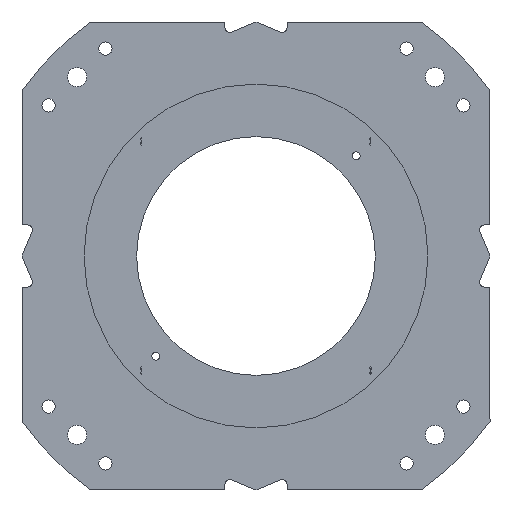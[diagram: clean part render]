
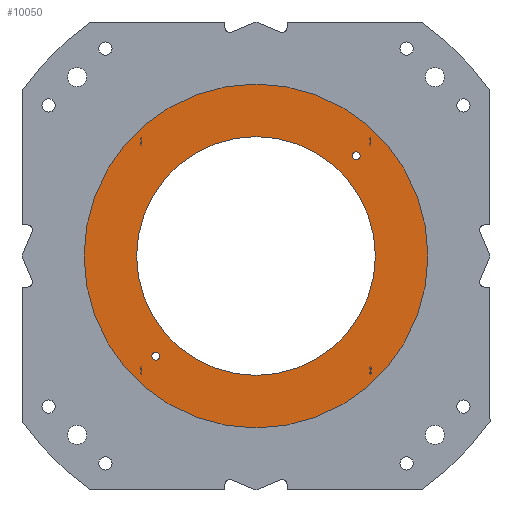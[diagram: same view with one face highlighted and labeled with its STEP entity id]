
A CAD part, front view. The second image highlights one B-rep face of the part: STEP entity #10050.
In plain terms, the highlighted planar face has unit normal (0, -1, 0).
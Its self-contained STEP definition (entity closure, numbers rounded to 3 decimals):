
#120 = AXIS2_PLACEMENT_3D ( 'NONE', #3338, #6889, #6077 ) ;
#306 = CARTESIAN_POINT ( 'NONE',  ( 105., 963., 109. ) ) ;
#326 = ORIENTED_EDGE ( 'NONE', *, *, #1588, .F. ) ;
#343 = CIRCLE ( 'NONE', #2218, 125. ) ;
#516 = FACE_BOUND ( 'NONE', #5820, .T. ) ;
#632 = FACE_BOUND ( 'NONE', #1155, .T. ) ;
#1155 = EDGE_LOOP ( 'NONE', ( #3562, #6162 ) ) ;
#1196 = AXIS2_PLACEMENT_3D ( 'NONE', #11223, #9494, #1535 ) ;
#1378 = CARTESIAN_POINT ( 'NONE',  ( -105., 963., -109. ) ) ;
#1455 = AXIS2_PLACEMENT_3D ( 'NONE', #11106, #10111, #3017 ) ;
#1535 = DIRECTION ( 'NONE',  ( 0., 0., 1. ) ) ;
#1536 = VERTEX_POINT ( 'NONE', #7377 ) ;
#1588 = EDGE_CURVE ( 'NONE', #4759, #8736, #3036, .T. ) ;
#1688 = CARTESIAN_POINT ( 'NONE',  ( 0., 963., 0. ) ) ;
#1820 = CARTESIAN_POINT ( 'NONE',  ( -105., 963., -101. ) ) ;
#1892 = ORIENTED_EDGE ( 'NONE', *, *, #5312, .F. ) ;
#1922 = CARTESIAN_POINT ( 'NONE',  ( 0., 963., -180. ) ) ;
#2131 = EDGE_CURVE ( 'NONE', #4804, #9982, #10859, .T. ) ;
#2218 = AXIS2_PLACEMENT_3D ( 'NONE', #6868, #2456, #10476 ) ;
#2434 = DIRECTION ( 'NONE',  ( 0., 0., -1. ) ) ;
#2456 = DIRECTION ( 'NONE',  ( 0., -1., 0. ) ) ;
#2496 = PLANE ( 'NONE',  #5401 ) ;
#2766 = DIRECTION ( 'NONE',  ( 0., 0., -1. ) ) ;
#2876 = CARTESIAN_POINT ( 'NONE',  ( 0., 963., 0. ) ) ;
#3017 = DIRECTION ( 'NONE',  ( 0., 0., -1. ) ) ;
#3023 = EDGE_LOOP ( 'NONE', ( #11092, #8508 ) ) ;
#3036 = CIRCLE ( 'NONE', #1196, 180. ) ;
#3158 = CIRCLE ( 'NONE', #7067, 180. ) ;
#3297 = FACE_OUTER_BOUND ( 'NONE', #7895, .T. ) ;
#3338 = CARTESIAN_POINT ( 'NONE',  ( -105., 963., -105. ) ) ;
#3562 = ORIENTED_EDGE ( 'NONE', *, *, #2131, .F. ) ;
#3589 = CARTESIAN_POINT ( 'NONE',  ( -105., 963., -105. ) ) ;
#3742 = CARTESIAN_POINT ( 'NONE',  ( 0., 963., -125. ) ) ;
#3882 = AXIS2_PLACEMENT_3D ( 'NONE', #2876, #6422, #9965 ) ;
#4422 = CIRCLE ( 'NONE', #10904, 4. ) ;
#4615 = DIRECTION ( 'NONE',  ( 0., -1., 0. ) ) ;
#4759 = VERTEX_POINT ( 'NONE', #1922 ) ;
#4804 = VERTEX_POINT ( 'NONE', #1820 ) ;
#5053 = DIRECTION ( 'NONE',  ( 0., -1., 0. ) ) ;
#5230 = ORIENTED_EDGE ( 'NONE', *, *, #6028, .F. ) ;
#5312 = EDGE_CURVE ( 'NONE', #10778, #9911, #11093, .T. ) ;
#5401 = AXIS2_PLACEMENT_3D ( 'NONE', #1688, #8525, #2434 ) ;
#5569 = CIRCLE ( 'NONE', #3882, 125. ) ;
#5820 = EDGE_LOOP ( 'NONE', ( #5230, #1892 ) ) ;
#6028 = EDGE_CURVE ( 'NONE', #9911, #10778, #4422, .T. ) ;
#6077 = DIRECTION ( 'NONE',  ( 0., 0., -1. ) ) ;
#6162 = ORIENTED_EDGE ( 'NONE', *, *, #7690, .F. ) ;
#6422 = DIRECTION ( 'NONE',  ( 0., -1., 0. ) ) ;
#6473 = EDGE_CURVE ( 'NONE', #1536, #8322, #343, .T. ) ;
#6494 = CIRCLE ( 'NONE', #10579, 4. ) ;
#6868 = CARTESIAN_POINT ( 'NONE',  ( 0., 963., 0. ) ) ;
#6889 = DIRECTION ( 'NONE',  ( 0., -1., 0. ) ) ;
#7067 = AXIS2_PLACEMENT_3D ( 'NONE', #7737, #11290, #11348 ) ;
#7357 = ORIENTED_EDGE ( 'NONE', *, *, #9984, .F. ) ;
#7377 = CARTESIAN_POINT ( 'NONE',  ( 0., 963., 125. ) ) ;
#7690 = EDGE_CURVE ( 'NONE', #9982, #4804, #6494, .T. ) ;
#7737 = CARTESIAN_POINT ( 'NONE',  ( 0., 963., 0. ) ) ;
#7756 = EDGE_CURVE ( 'NONE', #8322, #1536, #5569, .T. ) ;
#7895 = EDGE_LOOP ( 'NONE', ( #7357, #326 ) ) ;
#8322 = VERTEX_POINT ( 'NONE', #3742 ) ;
#8508 = ORIENTED_EDGE ( 'NONE', *, *, #7756, .F. ) ;
#8525 = DIRECTION ( 'NONE',  ( 0., -1., 0. ) ) ;
#8736 = VERTEX_POINT ( 'NONE', #10119 ) ;
#9494 = DIRECTION ( 'NONE',  ( 0., 1., 0. ) ) ;
#9589 = DIRECTION ( 'NONE',  ( 0., 0., -1. ) ) ;
#9911 = VERTEX_POINT ( 'NONE', #306 ) ;
#9965 = DIRECTION ( 'NONE',  ( 0., 0., -1. ) ) ;
#9982 = VERTEX_POINT ( 'NONE', #1378 ) ;
#9984 = EDGE_CURVE ( 'NONE', #8736, #4759, #3158, .T. ) ;
#10050 = ADVANCED_FACE ( 'NONE', ( #516, #632, #11316, #3297 ), #2496, .T. ) ;
#10111 = DIRECTION ( 'NONE',  ( 0., -1., 0. ) ) ;
#10119 = CARTESIAN_POINT ( 'NONE',  ( 0., 963., 180. ) ) ;
#10275 = CARTESIAN_POINT ( 'NONE',  ( 105., 963., 105. ) ) ;
#10476 = DIRECTION ( 'NONE',  ( 0., 0., -1. ) ) ;
#10579 = AXIS2_PLACEMENT_3D ( 'NONE', #3589, #4615, #2766 ) ;
#10778 = VERTEX_POINT ( 'NONE', #10952 ) ;
#10859 = CIRCLE ( 'NONE', #120, 4. ) ;
#10904 = AXIS2_PLACEMENT_3D ( 'NONE', #10275, #5053, #9589 ) ;
#10952 = CARTESIAN_POINT ( 'NONE',  ( 105., 963., 101. ) ) ;
#11092 = ORIENTED_EDGE ( 'NONE', *, *, #6473, .F. ) ;
#11093 = CIRCLE ( 'NONE', #1455, 4. ) ;
#11106 = CARTESIAN_POINT ( 'NONE',  ( 105., 963., 105. ) ) ;
#11223 = CARTESIAN_POINT ( 'NONE',  ( 0., 963., 0. ) ) ;
#11290 = DIRECTION ( 'NONE',  ( 0., 1., 0. ) ) ;
#11316 = FACE_BOUND ( 'NONE', #3023, .T. ) ;
#11348 = DIRECTION ( 'NONE',  ( 0., 0., 1. ) ) ;
